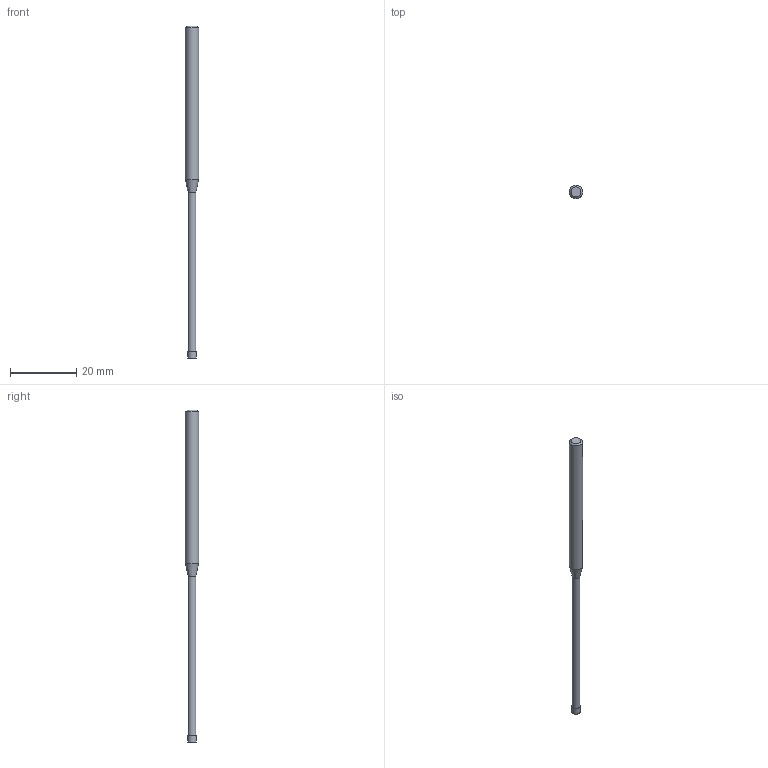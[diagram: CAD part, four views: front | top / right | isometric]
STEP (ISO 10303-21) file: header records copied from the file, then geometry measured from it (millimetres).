
FILE_DESCRIPTION((''),'2;1');
FILE_NAME('C:\Users\nsx150\AppData\Local\Temp\Mastercam 2021\RJ5U8K7RMU\TEMP.step','2021-04-21T16:42:38',(''),(''),'STEP Write','Mastercam 2021 ... CNC Software, Inc.','');
FILE_SCHEMA(('AUTOMOTIVE_DESIGN'));
Length unit declared in the file: millimetre
Products named in the file (1): None
Bounding box: 4 x 4 x 100 mm (x, y, z)
Volume: 837.4 mm3; surface area: 1020.2 mm2
Topology: 2 solids, 2 shells, 9 faces, 12 edges, 7 vertices
Faces by surface type: plane 4, cylinder 3, cone 2
Full cylindrical faces by diameter (mm): 2.4 x1, 2.5 x1, 4 x1
Entity records: 211 total; most frequent: DIRECTION 36, CARTESIAN_POINT 25, AXIS2_PLACEMENT_3D 18, ORIENTED_EDGE 14, EDGE_LOOP 14, STYLED_ITEM 12, ADVANCED_FACE 9, FACE_BOUND 8
